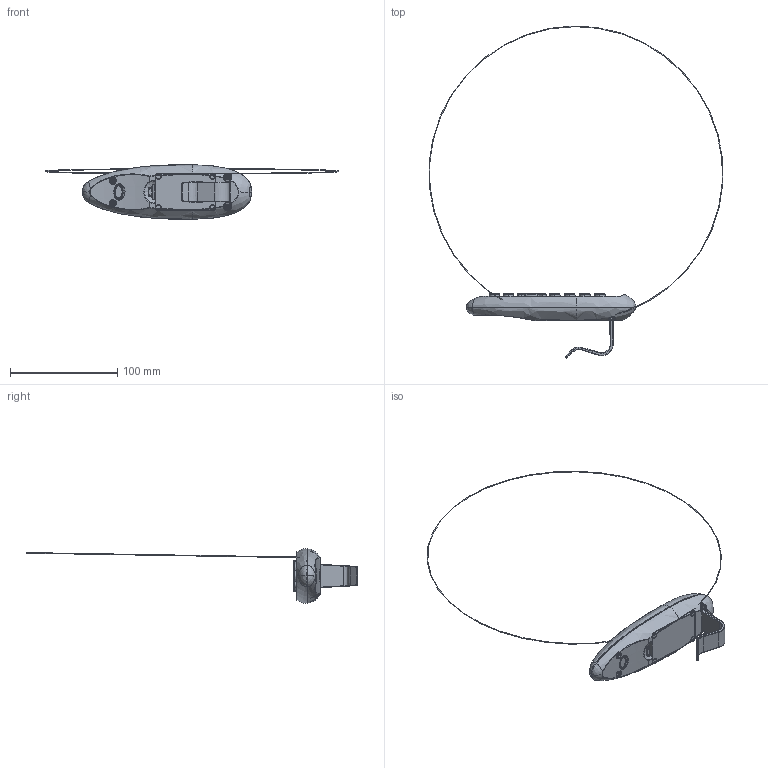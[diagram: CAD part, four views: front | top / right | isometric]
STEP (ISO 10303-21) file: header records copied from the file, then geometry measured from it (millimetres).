
FILE_DESCRIPTION((''),'2;1');
FILE_NAME('1','2014-06-04T',('tony'),(''),'PRO/ENGINEER BY PARAMETRIC TECHNOLOGY CORPORATION, 2008090','PRO/ENGINEER BY PARAMETRIC TECHNOLOGY CORPORATION, 2008090','');
FILE_SCHEMA(('CONFIG_CONTROL_DESIGN'));
Products named in the file (1): 1
Bounding box: 273.93 x 309.47 x 51 mm (x, y, z)
Surface area: 68392.8 mm2 (no closed solid volume)
Topology: 0 solids, 0 shells, 2226 faces, 11877 edges, 11811 vertices
Faces by surface type: bspline 2160, torus 62, sphere 4
Entity records: 212267 total; most frequent: CARTESIAN_POINT 110943, DIRECTION 15114, TRIMMED_CURVE 13215, DEFINITIONAL_REPRESENTATION 11752, PCURVE 11752, COMPOSITE_CURVE_SEGMENT 11752, VECTOR 11448, LINE 11448
